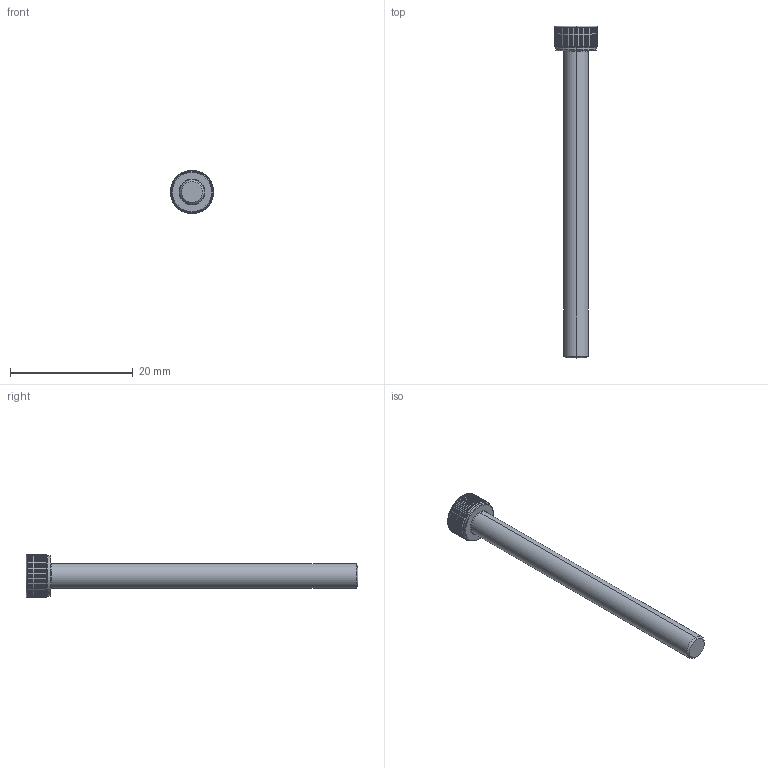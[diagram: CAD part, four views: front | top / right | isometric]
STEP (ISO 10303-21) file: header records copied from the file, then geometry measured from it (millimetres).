
FILE_DESCRIPTION (( 'STEP AP203' ), '1' );
FILE_NAME ('LGDT-304-M4x50.STEP', '2026-08-10T01:51:42', ( '' ), ( '' ), 'SwSTEP 2.0', 'SolidWorks 2020', '' );
FILE_SCHEMA (( 'CONFIG_CONTROL_DESIGN' ));
Length unit declared in the file: millimetre
Products named in the file (1): LGDT-304-M4x50
Bounding box: 7 x 54 x 7 mm (x, y, z)
Volume: 759 mm3; surface area: 809.4 mm2
Topology: 1 solids, 1 shells, 204 faces, 576 edges, 376 vertices
Faces by surface type: cylinder 175, cone 11, plane 10, torus 8
Entity records: 10019 total; most frequent: CARTESIAN_POINT 4860, ORIENTED_EDGE 1152, DIRECTION 988, EDGE_CURVE 576, AXIS2_PLACEMENT_3D 398, VERTEX_POINT 376, EDGE_LOOP 206, FACE_OUTER_BOUND 204
